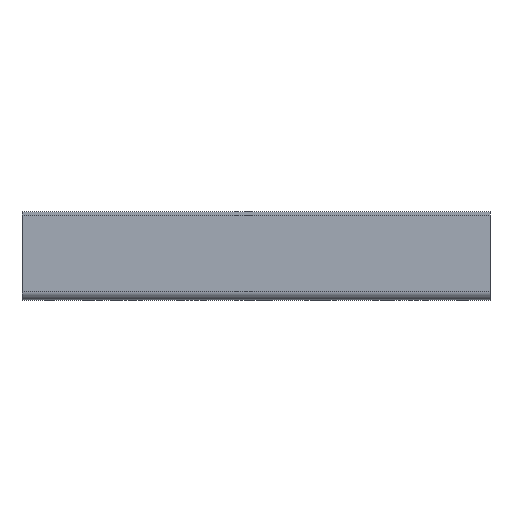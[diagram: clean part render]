
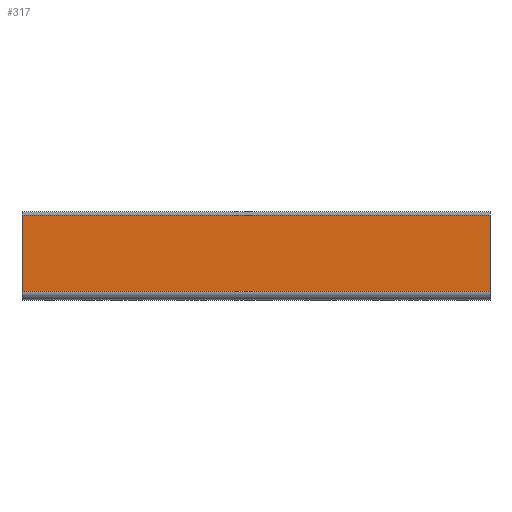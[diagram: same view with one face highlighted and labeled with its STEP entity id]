
A CAD part, top view. The second image highlights one B-rep face of the part: STEP entity #317.
In plain terms, the highlighted planar face has unit normal (0, 0, 1).
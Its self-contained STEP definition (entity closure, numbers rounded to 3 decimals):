
#167 = VERTEX_POINT ( 'NONE', #994 ) ;
#168 = VERTEX_POINT ( 'NONE', #995 ) ;
#317 = ADVANCED_FACE ( 'NONE', ( #2343 ), #3489, .F. ) ;
#532 = EDGE_LOOP ( 'NONE', ( #1532, #1533, #1534, #1535 ) ) ;
#793 = VERTEX_POINT ( 'NONE', #4263 ) ;
#794 = VERTEX_POINT ( 'NONE', #4264 ) ;
#994 = CARTESIAN_POINT ( 'NONE',  ( 215.5, 39., 0. ) ) ;
#995 = CARTESIAN_POINT ( 'NONE',  ( 215.5, 4., 0. ) ) ;
#1532 = ORIENTED_EDGE ( 'NONE', *, *, #1922, .T. ) ;
#1533 = ORIENTED_EDGE ( 'NONE', *, *, #1998, .F. ) ;
#1534 = ORIENTED_EDGE ( 'NONE', *, *, #1826, .F. ) ;
#1535 = ORIENTED_EDGE ( 'NONE', *, *, #1997, .T. ) ;
#1826 = EDGE_CURVE ( 'NONE', #167, #168, #2735, .T. ) ;
#1922 = EDGE_CURVE ( 'NONE', #794, #793, #2917, .T. ) ;
#1997 = EDGE_CURVE ( 'NONE', #167, #794, #3067, .T. ) ;
#1998 = EDGE_CURVE ( 'NONE', #168, #793, #3069, .T. ) ;
#2343 = FACE_OUTER_BOUND ( 'NONE', #532, .T. ) ;
#2735 = LINE ( 'NONE', #4320, #2736 ) ;
#2736 = VECTOR ( 'NONE', #4321, 1000. ) ;
#2917 = LINE ( 'NONE', #4603, #2919 ) ;
#2919 = VECTOR ( 'NONE', #4604, 1000. ) ;
#3067 = LINE ( 'NONE', #4754, #3068 ) ;
#3068 = VECTOR ( 'NONE', #4755, 1000. ) ;
#3069 = LINE ( 'NONE', #4756, #3070 ) ;
#3070 = VECTOR ( 'NONE', #4757, 1000. ) ;
#3489 = PLANE ( 'NONE',  #3670 ) ;
#3490 = CARTESIAN_POINT ( 'NONE',  ( 215.5, 39., 0. ) ) ;
#3491 = DIRECTION ( 'NONE',  ( 0., 0., -1. ) ) ;
#3492 = DIRECTION ( 'NONE',  ( 0., 1., 0. ) ) ;
#3670 = AXIS2_PLACEMENT_3D ( 'NONE', #3490, #3491, #3492 ) ;
#4263 = CARTESIAN_POINT ( 'NONE',  ( 0., 4., 0. ) ) ;
#4264 = CARTESIAN_POINT ( 'NONE',  ( 0., 39., 0. ) ) ;
#4320 = CARTESIAN_POINT ( 'NONE',  ( 215.5, 39., 0. ) ) ;
#4321 = DIRECTION ( 'NONE',  ( 0., -1., 0. ) ) ;
#4603 = CARTESIAN_POINT ( 'NONE',  ( 0., 39., 0. ) ) ;
#4604 = DIRECTION ( 'NONE',  ( 0., -1., 0. ) ) ;
#4754 = CARTESIAN_POINT ( 'NONE',  ( 215.5, 39., 0. ) ) ;
#4755 = DIRECTION ( 'NONE',  ( -1., 0., 0. ) ) ;
#4756 = CARTESIAN_POINT ( 'NONE',  ( 215.5, 4., 0. ) ) ;
#4757 = DIRECTION ( 'NONE',  ( -1., 0., 0. ) ) ;
